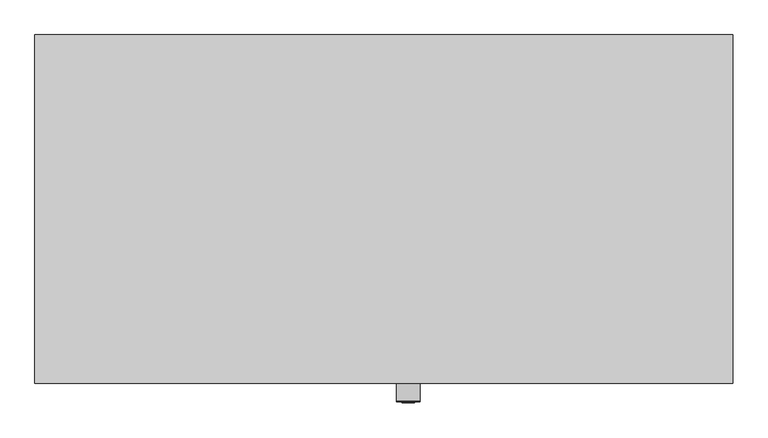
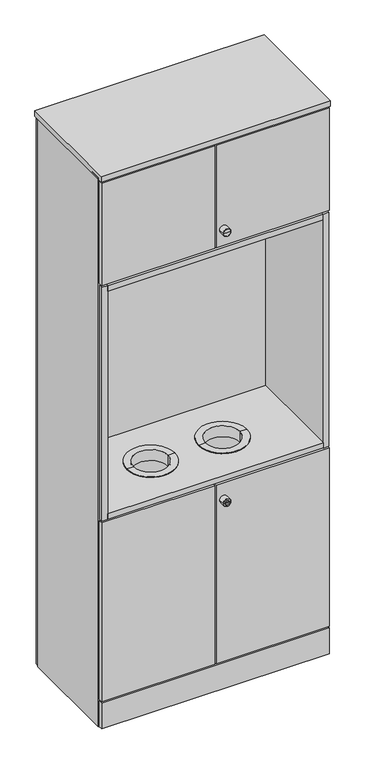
"""IFC4 building model written with IfcOpenShell, lengths in millimetres: furniture geometry, Furniture_Storage_Spacestor_SignatureStoragewall : Recyclepoint Single."""

from ifc_helpers import new_model, si_unit, point, frame, frame_2d, origin, origin_with_axes, place, context, project, spatial, polyline, circle_curve, ellipse_curve, trimmed, segment, composite_curve, outline, extrude, source, transform, mapped, element, save
from ifc_brep_helpers import plane_surface, cylinder_surface, revolved_surface, advanced_brep


def furniture_0d8f1cfd(model_context):
    return source(origin(), model_context, "Body", "SolidModel", [
        extrude(outline(polyline([(996.5, 459.0), (3.5, 459.0), (3.5, 477.0), (996.5, 477.0), (996.5, 459.0)])), origin_with_axes(), (0.0, 0.0, 1.0), 2518.0),
        extrude(outline(polyline([(996.5, -18.0), (3.5, -18.0), (3.5, 0.0), (996.5, 0.0), (996.5, -18.0)])), origin_with_axes(), (0.0, 0.0, 1.0), 118.0),
        extrude(outline(polyline([(1000.0, -20.5), (0.0, -20.5), (0.0, 479.5), (1000.0, 479.5), (1000.0, -20.5)])), frame((0.0, 0.0, 2525.0), z_axis=(0.0, 0.0, 1.0), x_axis=(1.0, 0.0, 0.0)), (0.0, 0.0, 1.0), 25.5),
        extrude(outline(polyline([(1000.0, 0.0), (989.0, 0.0), (989.0, 459.0), (1000.0, 459.0), (1000.0, 0.0)])), origin_with_axes(), (0.0, 0.0, 1.0), 2532.5),
        extrude(outline(polyline([(11.0, 0.0), (0.0, 0.0), (0.0, 459.0), (11.0, 459.0), (11.0, 0.0)])), origin_with_axes(), (0.0, 0.0, 1.0), 2532.5),
        extrude(outline(polyline([(989.0, 0.0), (11.0, 0.0), (11.0, 30.0), (989.0, 30.0), (989.0, 0.0)])), frame((0.0, 0.0, 942.5), z_axis=(0.0, 0.0, 1.0), x_axis=(1.0, 0.0, 0.0)), (0.0, 0.0, 1.0), 22.0),
        extrude(outline(polyline([(989.0, 0.0), (11.0, 0.0), (11.0, 459.0), (989.0, 459.0), (989.0, 0.0)])), frame((0.0, 0.0, 110.5), z_axis=(0.0, 0.0, 1.0), x_axis=(1.0, 0.0, 0.0)), (0.0, 0.0, 1.0), 22.0),
        extrude(outline(polyline([(989.0, 0.0), (11.0, 0.0), (11.0, 459.0), (989.0, 459.0), (989.0, 0.0)])), frame((0.0, 0.0, 2510.0), z_axis=(0.0, 0.0, 1.0), x_axis=(1.0, 0.0, 0.0)), (0.0, 0.0, 1.0), 22.0),
        extrude(outline(polyline([(989.0, 0.0), (11.0, 0.0), (11.0, 459.0), (989.0, 459.0), (989.0, 0.0)])), frame((0.0, 0.0, 2030.5), z_axis=(0.0, 0.0, 1.0), x_axis=(1.0, 0.0, 0.0)), (0.0, 0.0, 1.0), 22.0),
        advanced_brep(
        [(552.0, -45.3116344, 2120.0), (518.0, -45.3116344, 2120.0), (518.0, -18.0, 2120.0), (552.0, -18.0, 2120.0), (535.0, -18.0, 2120.0), (535.0, -46.3150077, 2120.0), (519.0033734, -46.3150077, 2120.0), (550.9966266, -46.3150077, 2120.0)],
        [
            (0, 1, circle_curve(frame((535.0, -45.3116344, 2120.0), z_axis=(0.0, 1.0, 0.0), x_axis=(-1.0, 0.0, 0.0)), 17.0)),
            (1, 2),
            (2, 3, circle_curve(frame((535.0, -18.0, 2120.0), z_axis=(0.0, -1.0, 0.0), x_axis=(-1.0, 0.0, 0.0)), 17.0)),
            (3, 0),
            (1, 0, circle_curve(frame((535.0, -45.3116344, 2120.0), z_axis=(0.0, 1.0, 0.0), x_axis=(-1.0, 0.0, 0.0)), 17.0)),
            (3, 2, circle_curve(frame((535.0, -18.0, 2120.0), z_axis=(0.0, -1.0, 0.0), x_axis=(-1.0, 0.0, 0.0)), 17.0)),
            (2, 4),
            (4, 3),
            (5, 6),
            (6, 7, circle_curve(frame((535.0, -46.3150077, 2120.0), z_axis=(0.0, -1.0, 0.0), x_axis=(-1.0, 0.0, 0.0)), 15.9966266)),
            (7, 5),
            (7, 6, circle_curve(frame((535.0, -46.3150077, 2120.0), z_axis=(0.0, -1.0, 0.0), x_axis=(-1.0, 0.0, 0.0)), 15.9966266)),
            (6, 1, circle_curve(frame((519.0033734, -45.3116344, 2120.0), z_axis=(0.0, 0.0, -1.0), x_axis=(-1.0, 0.0, 0.0)), 1.0033734)),
            (0, 7, circle_curve(frame((550.9966266, -45.3116344, 2120.0), z_axis=(0.0, 0.0, -1.0), x_axis=(1.0, 0.0, 0.0)), 1.0033734)),
        ],
        [
            cylinder_surface(frame((535.0, -2627.0581012, 2120.0), z_axis=(0.0, -1.0, 0.0), x_axis=(-1.0, 0.0, 0.0)), 17.0),
            plane_surface(frame((535.0, -18.0, 2120.0), z_axis=(0.0, 1.0, 0.0), x_axis=(-1.0, 0.0, 0.0))),
            plane_surface(frame((535.0, -46.3150077, 2120.0), z_axis=(0.0, -1.0, 0.0), x_axis=(-1.0, 0.0, 0.0))),
            revolved_surface(trimmed(ellipse_curve(frame((519.0033734, -45.3116344, 2120.0), z_axis=(0.0, 0.0, 1.0), x_axis=(-1.0, 0.0, 0.0)), 1.0033734, 1.0033734), [point((518.0, -45.3116344, 2120.0))], [point((519.0033734, -46.3150077, 2120.0))], True, "CARTESIAN"), (535.0, -2627.0581012, 2120.0), (0.0, -1.0, 0.0)),
        ],
        [
            (0, [[1, 2, 3, 4]]),
            (0, [[5, -4, 6, -2]]),
            (1, [[-3, 7, 8]]),
            (1, [[-6, -8, -7]]),
            (2, [[9, 10, 11]]),
            (2, [[-11, 12, -9]]),
            (3, [[-10, 13, -1, 14]]),
            (3, [[-12, -14, -5, -13]]),
        ],
    ),
        advanced_brep(
        [(761.8333333, 199.0, 982.5), (551.8333333, 199.0, 982.5), (551.8333333, 199.0, 985.5), (761.8333333, 199.0, 985.5), (734.8333333, 199.0, 982.5), (578.8333333, 199.0, 982.5), (734.8333333, 199.0, 935.5), (578.8333333, 199.0, 935.5), (731.8333333, 199.0, 935.5), (581.8333333, 199.0, 935.5), (731.8333333, 199.0, 985.5), (581.8333333, 199.0, 985.5)],
        [
            (0, 1, circle_curve(frame((656.8333333, 199.0, 982.5), z_axis=(0.0, 0.0, 1.0), x_axis=(-1.0, 0.0, 0.0)), 105.0)),
            (1, 2),
            (2, 3, circle_curve(frame((656.8333333, 199.0, 985.5), z_axis=(0.0, 0.0, -1.0), x_axis=(-1.0, 0.0, 0.0)), 105.0)),
            (3, 0),
            (1, 0, circle_curve(frame((656.8333333, 199.0, 982.5), z_axis=(0.0, 0.0, 1.0), x_axis=(-1.0, 0.0, 0.0)), 105.0)),
            (3, 2, circle_curve(frame((656.8333333, 199.0, 985.5), z_axis=(0.0, 0.0, -1.0), x_axis=(-1.0, 0.0, 0.0)), 105.0)),
            (4, 5, circle_curve(frame((656.8333333, 199.0, 982.5), z_axis=(0.0, 0.0, 1.0), x_axis=(-1.0, 0.0, 0.0)), 78.0)),
            (5, 1),
            (0, 4),
            (5, 4, circle_curve(frame((656.8333333, 199.0, 982.5), z_axis=(0.0, 0.0, 1.0), x_axis=(-1.0, 0.0, 0.0)), 78.0)),
            (6, 7, circle_curve(frame((656.8333333, 199.0, 935.5), z_axis=(0.0, 0.0, 1.0), x_axis=(-1.0, 0.0, 0.0)), 78.0)),
            (7, 5),
            (4, 6),
            (7, 6, circle_curve(frame((656.8333333, 199.0, 935.5), z_axis=(0.0, 0.0, 1.0), x_axis=(-1.0, 0.0, 0.0)), 78.0)),
            (8, 9, circle_curve(frame((656.8333333, 199.0, 935.5), z_axis=(0.0, 0.0, 1.0), x_axis=(-1.0, 0.0, 0.0)), 75.0)),
            (9, 7),
            (6, 8),
            (9, 8, circle_curve(frame((656.8333333, 199.0, 935.5), z_axis=(0.0, 0.0, 1.0), x_axis=(-1.0, 0.0, 0.0)), 75.0)),
            (10, 11, circle_curve(frame((656.8333333, 199.0, 985.5), z_axis=(0.0, 0.0, 1.0), x_axis=(-1.0, 0.0, 0.0)), 75.0)),
            (11, 9),
            (8, 10),
            (11, 10, circle_curve(frame((656.8333333, 199.0, 985.5), z_axis=(0.0, 0.0, 1.0), x_axis=(-1.0, 0.0, 0.0)), 75.0)),
            (2, 11),
            (10, 3),
        ],
        [
            cylinder_surface(frame((656.8333333, 199.0, 435.5), z_axis=(0.0, 0.0, -1.0), x_axis=(-1.0, 0.0, 0.0)), 105.0),
            plane_surface(frame((656.8333333, 199.0, 982.5), z_axis=(0.0, 0.0, -1.0), x_axis=(-1.0, 0.0, 0.0))),
            cylinder_surface(frame((656.8333333, 199.0, 435.5), z_axis=(0.0, 0.0, -1.0), x_axis=(-1.0, 0.0, 0.0)), 78.0),
            plane_surface(frame((656.8333333, 199.0, 935.5), z_axis=(0.0, 0.0, -1.0), x_axis=(-1.0, 0.0, 0.0))),
            revolved_surface(polyline([(581.8333333, 199.0, 935.5), (581.8333333, 199.0, 985.5)]), (656.8333333, 199.0, 435.5), (0.0, 0.0, -1.0)),
            plane_surface(frame((656.8333333, 199.0, 985.5), z_axis=(0.0, 0.0, 1.0), x_axis=(-1.0, 0.0, 0.0))),
        ],
        [
            (0, [[1, 2, 3, 4]]),
            (0, [[5, -4, 6, -2]]),
            (1, [[7, 8, -1, 9]]),
            (1, [[10, -9, -5, -8]]),
            (2, [[11, 12, -7, 13]]),
            (2, [[14, -13, -10, -12]]),
            (3, [[15, 16, -11, 17]]),
            (3, [[18, -17, -14, -16]]),
            (4, [[19, 20, -15, 21]]),
            (4, [[22, -21, -18, -20]]),
            (5, [[-3, 23, -19, 24]]),
            (5, [[-6, -24, -22, -23]]),
        ],
    ),
        advanced_brep(
        [(448.1666667, 199.0, 982.5), (238.1666667, 199.0, 982.5), (238.1666667, 199.0, 985.5), (448.1666667, 199.0, 985.5), (421.1666667, 199.0, 982.5), (265.1666667, 199.0, 982.5), (421.1666667, 199.0, 935.5), (265.1666667, 199.0, 935.5), (418.1666667, 199.0, 935.5), (268.1666667, 199.0, 935.5), (418.1666667, 199.0, 985.5), (268.1666667, 199.0, 985.5)],
        [
            (0, 1, circle_curve(frame((343.1666667, 199.0, 982.5), z_axis=(0.0, 0.0, 1.0), x_axis=(-1.0, 0.0, 0.0)), 105.0)),
            (1, 2),
            (2, 3, circle_curve(frame((343.1666667, 199.0, 985.5), z_axis=(0.0, 0.0, -1.0), x_axis=(-1.0, 0.0, 0.0)), 105.0)),
            (3, 0),
            (1, 0, circle_curve(frame((343.1666667, 199.0, 982.5), z_axis=(0.0, 0.0, 1.0), x_axis=(-1.0, 0.0, 0.0)), 105.0)),
            (3, 2, circle_curve(frame((343.1666667, 199.0, 985.5), z_axis=(0.0, 0.0, -1.0), x_axis=(-1.0, 0.0, 0.0)), 105.0)),
            (4, 5, circle_curve(frame((343.1666667, 199.0, 982.5), z_axis=(0.0, 0.0, 1.0), x_axis=(-1.0, 0.0, 0.0)), 78.0)),
            (5, 1),
            (0, 4),
            (5, 4, circle_curve(frame((343.1666667, 199.0, 982.5), z_axis=(0.0, 0.0, 1.0), x_axis=(-1.0, 0.0, 0.0)), 78.0)),
            (6, 7, circle_curve(frame((343.1666667, 199.0, 935.5), z_axis=(0.0, 0.0, 1.0), x_axis=(-1.0, 0.0, 0.0)), 78.0)),
            (7, 5),
            (4, 6),
            (7, 6, circle_curve(frame((343.1666667, 199.0, 935.5), z_axis=(0.0, 0.0, 1.0), x_axis=(-1.0, 0.0, 0.0)), 78.0)),
            (8, 9, circle_curve(frame((343.1666667, 199.0, 935.5), z_axis=(0.0, 0.0, 1.0), x_axis=(-1.0, 0.0, 0.0)), 75.0)),
            (9, 7),
            (6, 8),
            (9, 8, circle_curve(frame((343.1666667, 199.0, 935.5), z_axis=(0.0, 0.0, 1.0), x_axis=(-1.0, 0.0, 0.0)), 75.0)),
            (10, 11, circle_curve(frame((343.1666667, 199.0, 985.5), z_axis=(0.0, 0.0, 1.0), x_axis=(-1.0, 0.0, 0.0)), 75.0)),
            (11, 9),
            (8, 10),
            (11, 10, circle_curve(frame((343.1666667, 199.0, 985.5), z_axis=(0.0, 0.0, 1.0), x_axis=(-1.0, 0.0, 0.0)), 75.0)),
            (2, 11),
            (10, 3),
        ],
        [
            cylinder_surface(frame((343.1666667, 199.0, 435.5), z_axis=(0.0, 0.0, -1.0), x_axis=(-1.0, 0.0, 0.0)), 105.0),
            plane_surface(frame((343.1666667, 199.0, 982.5), z_axis=(0.0, 0.0, -1.0), x_axis=(-1.0, 0.0, 0.0))),
            cylinder_surface(frame((343.1666667, 199.0, 435.5), z_axis=(0.0, 0.0, -1.0), x_axis=(-1.0, 0.0, 0.0)), 78.0),
            plane_surface(frame((343.1666667, 199.0, 935.5), z_axis=(0.0, 0.0, -1.0), x_axis=(-1.0, 0.0, 0.0))),
            revolved_surface(polyline([(268.1666667, 199.0, 935.5), (268.1666667, 199.0, 985.5)]), (343.1666667, 199.0, 435.5), (0.0, 0.0, -1.0)),
            plane_surface(frame((343.1666667, 199.0, 985.5), z_axis=(0.0, 0.0, 1.0), x_axis=(-1.0, 0.0, 0.0))),
        ],
        [
            (0, [[1, 2, 3, 4]]),
            (0, [[5, -4, 6, -2]]),
            (1, [[7, 8, -1, 9]]),
            (1, [[10, -9, -5, -8]]),
            (2, [[11, 12, -7, 13]]),
            (2, [[14, -13, -10, -12]]),
            (3, [[15, 16, -11, 17]]),
            (3, [[18, -17, -14, -16]]),
            (4, [[19, 20, -15, 21]]),
            (4, [[22, -21, -18, -20]]),
            (5, [[-3, 23, -19, 24]]),
            (5, [[-6, -24, -22, -23]]),
        ],
    ),
        extrude(outline(polyline([(970.5, 416.0), (970.5, -18.0), (29.5, -18.0), (29.5, 416.0), (970.5, 416.0)]), holes=[composite_curve([segment(trimmed(circle_curve(frame_2d((343.1666667, 199.0)), 78.0), [point((265.1666667, 199.0))], [point((421.1666667, 199.0))], True, "CARTESIAN"), True, "CONTINUOUS"), segment(trimmed(circle_curve(frame_2d((343.1666667, 199.0)), 78.0), [point((421.1666667, 199.0))], [point((265.1666667, 199.0))], True, "CARTESIAN"), True, "CONTINUOUS")], self_intersect=False), composite_curve([segment(trimmed(circle_curve(frame_2d((656.8333333, 199.0)), 78.0), [point((578.8333333, 199.0))], [point((734.8333333, 199.0))], True, "CARTESIAN"), True, "CONTINUOUS"), segment(trimmed(circle_curve(frame_2d((656.8333333, 199.0)), 78.0), [point((734.8333333, 199.0))], [point((578.8333333, 199.0))], True, "CARTESIAN"), True, "CONTINUOUS")], self_intersect=False)]), frame((0.0, 0.0, 957.5), z_axis=(0.0, 0.0, 1.0), x_axis=(1.0, 0.0, 0.0)), (0.0, 0.0, 1.0), 25.0),
        extrude(outline(polyline([(29.5, -18.0), (4.5, -18.0), (4.5, 416.0), (29.5, 416.0), (29.5, -18.0)])), frame((0.0, 0.0, 957.0), z_axis=(0.0, 0.0, 1.0), x_axis=(1.0, 0.0, 0.0)), (0.0, 0.0, 1.0), 1079.0),
        extrude(outline(polyline([(995.5, -18.0), (970.5, -18.0), (970.5, 416.0), (995.5, 416.0), (995.5, -18.0)])), frame((0.0, 0.0, 957.0), z_axis=(0.0, 0.0, 1.0), x_axis=(1.0, 0.0, 0.0)), (0.0, 0.0, 1.0), 1079.0),
        extrude(outline(polyline([(995.5, 416.0), (4.5, 416.0), (4.5, 434.0), (995.5, 434.0), (995.5, 416.0)])), frame((0.0, 0.0, 957.0), z_axis=(0.0, 0.0, 1.0), x_axis=(1.0, 0.0, 0.0)), (0.0, 0.0, 1.0), 1079.0),
        extrude(outline(polyline([(970.5, -18.0), (29.5, -18.0), (29.5, 416.0), (970.5, 416.0), (970.5, -18.0)])), frame((0.0, 0.0, 2010.5), z_axis=(0.0, 0.0, 1.0), x_axis=(1.0, 0.0, 0.0)), (0.0, 0.0, 1.0), 25.0),
        extrude(outline(polyline([(3.5, -18.0), (3.5, 0.0), (496.5, 0.0), (496.5, -18.0), (3.5, -18.0)])), frame((0.0, 0.0, 125.0), z_axis=(0.0, 0.0, 1.0), x_axis=(1.0, 0.0, 0.0)), (0.0, 0.0, 1.0), 825.0),
        extrude(outline(polyline([(996.5, -18.0), (503.5, -18.0), (503.5, 0.0), (996.5, 0.0), (996.5, -18.0)])), frame((0.0, 0.0, 125.0), z_axis=(0.0, 0.0, 1.0), x_axis=(1.0, 0.0, 0.0)), (0.0, 0.0, 1.0), 825.0),
        advanced_brep(
        [(552.0, -45.3116344, 875.0), (518.0, -45.3116344, 875.0), (518.0, -18.0, 875.0), (552.0, -18.0, 875.0), (535.0, -18.0, 875.0), (543.9747319, -46.3150077, 875.0), (526.0252681, -46.3150077, 875.0), (519.0033734, -46.3150077, 875.0), (550.9966266, -46.3150077, 875.0), (543.9747319, -47.4703043, 875.0), (526.0252681, -47.4703043, 875.0), (539.8245152, -47.4703043, 875.0), (539.8245152, -47.4703043, 873.6366562), (530.1754848, -47.4703043, 873.6366562), (530.1754848, -47.4703043, 875.0), (530.1754848, -47.4703043, 876.3633438), (539.8245152, -47.4703043, 876.3633438), (530.1754848, -27.8604291, 873.6366562), (539.8245152, -27.8604291, 873.6366562), (539.8245152, -27.8604291, 876.3633438), (530.1754848, -27.8604291, 876.3633438)],
        [
            (0, 1, circle_curve(frame((535.0, -45.3116344, 875.0), z_axis=(0.0, 1.0, 0.0), x_axis=(-1.0, 0.0, 0.0)), 17.0)),
            (1, 2),
            (2, 3, circle_curve(frame((535.0, -18.0, 875.0), z_axis=(0.0, -1.0, 0.0), x_axis=(-1.0, 0.0, 0.0)), 17.0)),
            (3, 0),
            (1, 0, circle_curve(frame((535.0, -45.3116344, 875.0), z_axis=(0.0, 1.0, 0.0), x_axis=(-1.0, 0.0, 0.0)), 17.0)),
            (3, 2, circle_curve(frame((535.0, -18.0, 875.0), z_axis=(0.0, -1.0, 0.0), x_axis=(-1.0, 0.0, 0.0)), 17.0)),
            (2, 4),
            (4, 3),
            (5, 6, circle_curve(frame((535.0, -46.3150077, 875.0), z_axis=(0.0, 1.0, 0.0), x_axis=(-1.0, 0.0, 0.0)), 8.9747319)),
            (6, 7),
            (7, 8, circle_curve(frame((535.0, -46.3150077, 875.0), z_axis=(0.0, -1.0, 0.0), x_axis=(-1.0, 0.0, 0.0)), 15.9966266)),
            (8, 5),
            (6, 5, circle_curve(frame((535.0, -46.3150077, 875.0), z_axis=(0.0, 1.0, 0.0), x_axis=(-1.0, 0.0, 0.0)), 8.9747319)),
            (8, 7, circle_curve(frame((535.0, -46.3150077, 875.0), z_axis=(0.0, -1.0, 0.0), x_axis=(-1.0, 0.0, 0.0)), 15.9966266)),
            (0, 8, circle_curve(frame((550.9966266, -45.3116344, 875.0), z_axis=(0.0, 0.0, -1.0), x_axis=(1.0, 0.0, 0.0)), 1.0033734)),
            (7, 1, circle_curve(frame((519.0033734, -45.3116344, 875.0), z_axis=(0.0, 0.0, -1.0), x_axis=(-1.0, 0.0, 0.0)), 1.0033734)),
            (5, 9),
            (9, 10, circle_curve(frame((535.0, -47.4703043, 875.0), z_axis=(0.0, 1.0, 0.0), x_axis=(-1.0, 0.0, 0.0)), 8.9747319)),
            (10, 6),
            (10, 9, circle_curve(frame((535.0, -47.4703043, 875.0), z_axis=(0.0, 1.0, 0.0), x_axis=(-1.0, 0.0, 0.0)), 8.9747319)),
            (9, 11),
            (11, 12),
            (12, 13),
            (13, 14),
            (14, 10),
            (14, 15),
            (15, 16),
            (16, 11),
            (17, 18),
            (18, 19),
            (19, 20),
            (20, 17),
            (17, 13),
            (12, 18),
            (16, 19),
            (15, 20),
        ],
        [
            cylinder_surface(frame((535.0, -2627.0581012, 875.0), z_axis=(0.0, -1.0, 0.0), x_axis=(-1.0, 0.0, 0.0)), 17.0),
            plane_surface(frame((535.0, -18.0, 875.0), z_axis=(0.0, 1.0, 0.0), x_axis=(-1.0, 0.0, 0.0))),
            plane_surface(frame((535.0, -46.3150077, 875.0), z_axis=(0.0, -1.0, 0.0), x_axis=(-1.0, 0.0, 0.0))),
            revolved_surface(trimmed(ellipse_curve(frame((519.0033734, -45.3116344, 875.0), z_axis=(0.0, 0.0, 1.0), x_axis=(-1.0, 0.0, 0.0)), 1.0033734, 1.0033734), [point((518.0, -45.3116344, 875.0))], [point((519.0033734, -46.3150077, 875.0))], True, "CARTESIAN"), (535.0, -2627.0581012, 875.0), (0.0, -1.0, 0.0)),
            cylinder_surface(frame((535.0, -2627.0581012, 875.0), z_axis=(0.0, -1.0, 0.0), x_axis=(-1.0, 0.0, 0.0)), 8.9747319),
            plane_surface(frame((535.0, -47.4703043, 875.0), z_axis=(0.0, -1.0, 0.0), x_axis=(-1.0, 0.0, 0.0))),
            plane_surface(frame((539.4565249, -27.8604291, 873.6366562), z_axis=(0.0, -1.0, 0.0), x_axis=(-1.0, 0.0, 0.0))),
            plane_surface(frame((530.1754848, -49.2046383, 873.6366562), z_axis=(0.0, 0.0, 1.0), x_axis=(0.0, 1.0, 0.0))),
            plane_surface(frame((539.8245152, -49.2046383, 873.6366562), z_axis=(-1.0, 0.0, 0.0), x_axis=(0.0, 1.0, 0.0))),
            plane_surface(frame((539.8245152, -49.2046383, 876.3633438), z_axis=(0.0, 0.0, -1.0), x_axis=(0.0, 1.0, 0.0))),
            plane_surface(frame((530.1754848, -49.2046383, 876.3633438), z_axis=(1.0, 0.0, 0.0), x_axis=(0.0, 1.0, 0.0))),
        ],
        [
            (0, [[1, 2, 3, 4]]),
            (0, [[-2, 5, -4, 6]]),
            (1, [[-3, 7, 8]]),
            (1, [[-6, -8, -7]]),
            (2, [[9, 10, 11, 12]]),
            (2, [[-10, 13, -12, 14]]),
            (3, [[-1, 15, -11, 16]]),
            (3, [[-5, -16, -14, -15]]),
            (4, [[-9, 17, 18, 19]]),
            (4, [[-13, -19, 20, -17]]),
            (5, [[-18, 21, 22, 23, 24, 25]]),
            (5, [[-20, -25, 26, 27, 28, -21]]),
            (6, [[29, 30, 31, 32]]),
            (7, [[-29, 33, -23, 34]]),
            (8, [[-30, -34, -22, -28, 35]]),
            (9, [[-31, -35, -27, 36]]),
            (10, [[-32, -36, -26, -24, -33]]),
        ],
    ),
        extrude(outline(polyline([(3.5, -18.0), (3.5, 0.0), (496.5, 0.0), (496.5, -18.0), (3.5, -18.0)])), frame((0.0, 0.0, 2045.0), z_axis=(0.0, 0.0, 1.0), x_axis=(1.0, 0.0, 0.0)), (0.0, 0.0, 1.0), 473.0),
        extrude(outline(polyline([(996.5, -18.0), (503.5, -18.0), (503.5, 0.0), (996.5, 0.0), (996.5, -18.0)])), frame((0.0, 0.0, 2045.0), z_axis=(0.0, 0.0, 1.0), x_axis=(1.0, 0.0, 0.0)), (0.0, 0.0, 1.0), 473.0),
    ])


if __name__ == "__main__":
    model = new_model("IFC4")
    model_context = context("Model", 3, world=origin())
    ifc_project = project(units=[si_unit("LENGTHUNIT", "METRE", prefix="MILLI")], contexts=[model_context])
    site = spatial("IfcSite", under=ifc_project)
    building = spatial("IfcBuilding", under=site)
    placement = place(None, origin())
    furniture_shape = furniture_0d8f1cfd(model_context)
    element("IfcFurniture", 1, ObjectType="Furniture_Storage_Spacestor_SignatureStoragewall : Recyclepoint Single", at=placement, inside=building, context=model_context, shape_type="MappedRepresentation", body=[
        mapped(furniture_shape, transform((0.0, 0.0, 0.0), x_axis=(1.0, 0.0, 0.0), y_axis=(0.0, 1.0, 0.0), z_axis=(0.0, 0.0, 1.0))),
    ])
    save(model, "model.ifc")
